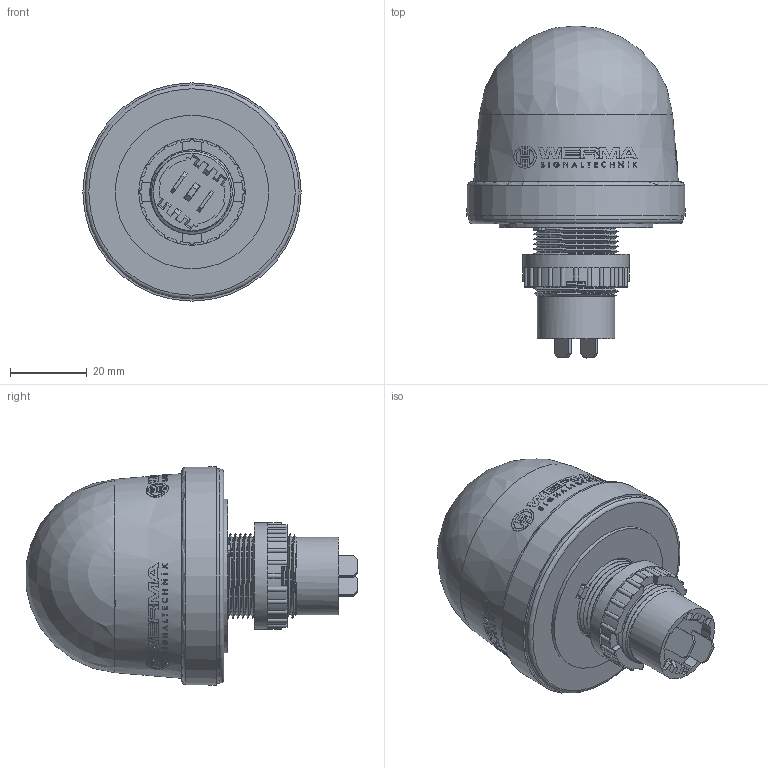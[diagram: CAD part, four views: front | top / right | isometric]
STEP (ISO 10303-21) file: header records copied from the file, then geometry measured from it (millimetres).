
FILE_DESCRIPTION(/* description */ (''),/* implementation_level */ '2;1');
FILE_NAME(/* name */ 'Robot Signal Light .step',/* time_stamp */ '2022-12-29T16:03:52-08:00',/* author */ (''),/* organization */ (''),/* preprocessor_version */ 'ST-DEVELOPER v19.2',/* originating_system */ 'Autodesk Translation Framework v11.17.0.187',/* authorisation */ '');
FILE_SCHEMA (('AUTOMOTIVE_DESIGN { 1 0 10303 214 3 1 1 }'));
Length unit declared in the file: inch
Products named in the file (1): Robot Signal Light
Bounding box: 56.9 x 86.53 x 56.9 mm (x, y, z)
Volume: 106186.6 mm3; surface area: 16818.8 mm2
Topology: 1 solids, 1 shells, 951 faces, 2610 edges, 1726 vertices
Faces by surface type: plane 637, cylinder 231, cone 78, torus 2, bspline 2, sphere 1
Full cylindrical faces by diameter (mm): 20.2 x15, 22 x10, 27.7 x1, 40 x1, 55.8 x1
Entity records: 37058 total; most frequent: CARTESIAN_POINT 11985, ORIENTED_EDGE 5220, DIRECTION 4952, EDGE_CURVE 2610, AXIS2_PLACEMENT_3D 1850, VERTEX_POINT 1726, LINE 1252, VECTOR 1252
